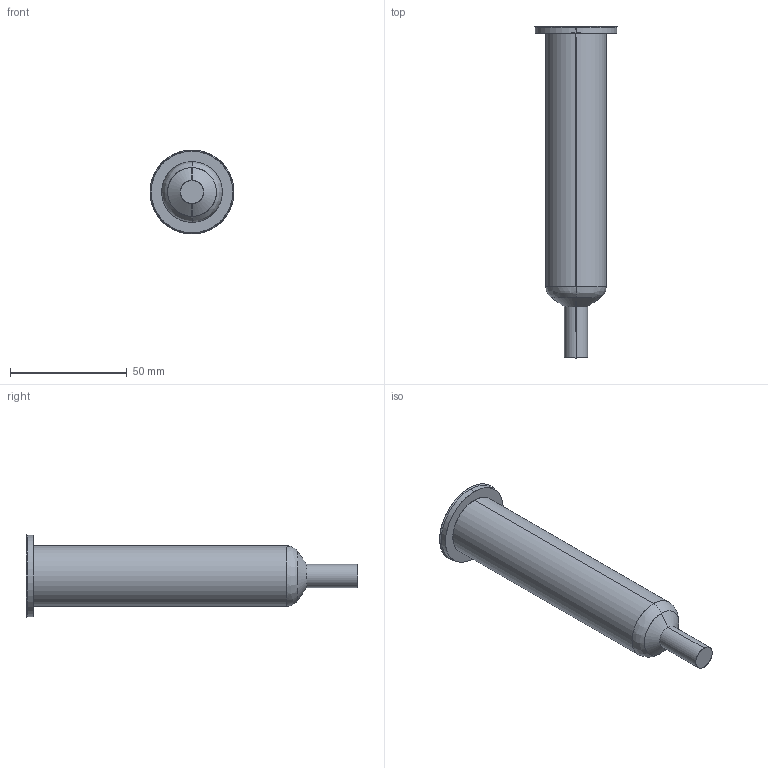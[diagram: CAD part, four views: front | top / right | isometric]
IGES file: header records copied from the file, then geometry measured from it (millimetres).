
Start section: SolidWorks IGES file using analytic representation for surfaces
Global section: file name: C:\Documents and Settings\ws-20\Desktop\TEM\Sede UGEP3153-M-A C-119 L-137 P-25.IGS; native system: SolidWorks 2012; preprocessor: SolidWorks 2012; author: ws-20; date: 120404.085514; units: millimetre
Bounding box: 36 x 142.3 x 36 mm (x, y, z)
Surface area: 12201.9 mm2 (no closed solid volume)
Topology: 0 solids, 0 shells, 15 faces, 240 edges, 240 vertices
Faces by surface type: revolution 10, bspline 5
